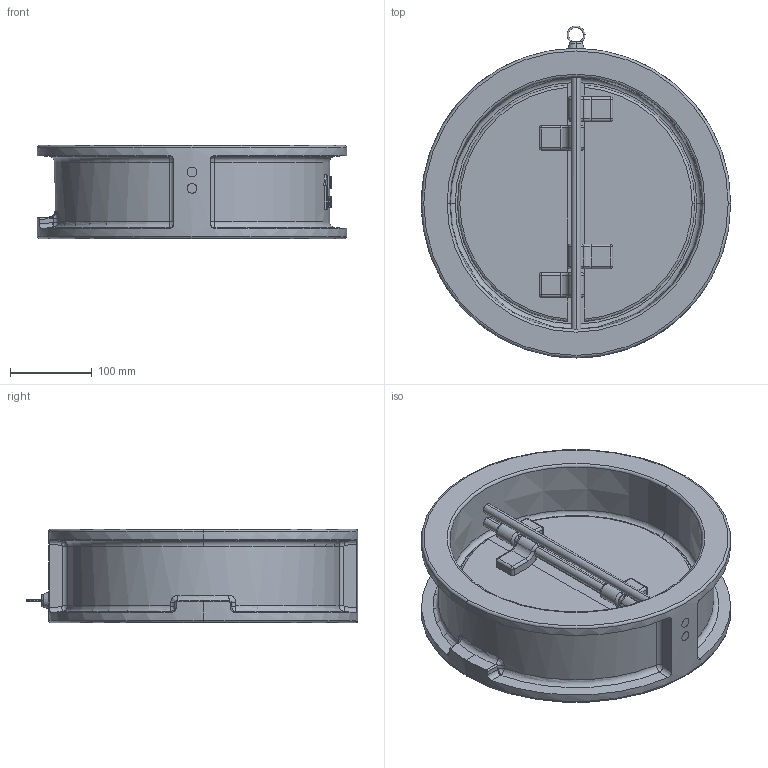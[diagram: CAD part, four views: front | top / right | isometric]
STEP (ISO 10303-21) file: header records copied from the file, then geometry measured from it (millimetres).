
FILE_DESCRIPTION (( 'STEP AP203' ), '1' );
FILE_NAME ('润泽DN300对夹双板止回阀PN16.STEP', '2026-08-19T02:43:13', ( 'Windows 用户' ), ( 'Microsoft' ), 'SwSTEP 2.0', 'SolidWorks 2022', '' );
FILE_SCHEMA (( 'CONFIG_CONTROL_DESIGN' ));
Length unit declared in the file: millimetre
Products named in the file (1): 润泽DN300对夹双板止回阀PN16
Bounding box: 378 x 405.68 x 114 mm (x, y, z)
Volume: 3720075.7 mm3; surface area: 537269.4 mm2
Topology: 1 solids, 1 shells, 380 faces, 962 edges, 598 vertices
Faces by surface type: bspline 111, cylinder 96, plane 95, torus 52, cone 18, sphere 8
Entity records: 15193 total; most frequent: CARTESIAN_POINT 6802, ORIENTED_EDGE 1904, DIRECTION 1468, EDGE_CURVE 952, VERTEX_POINT 598, AXIS2_PLACEMENT_3D 566, EDGE_LOOP 418, FACE_OUTER_BOUND 380
